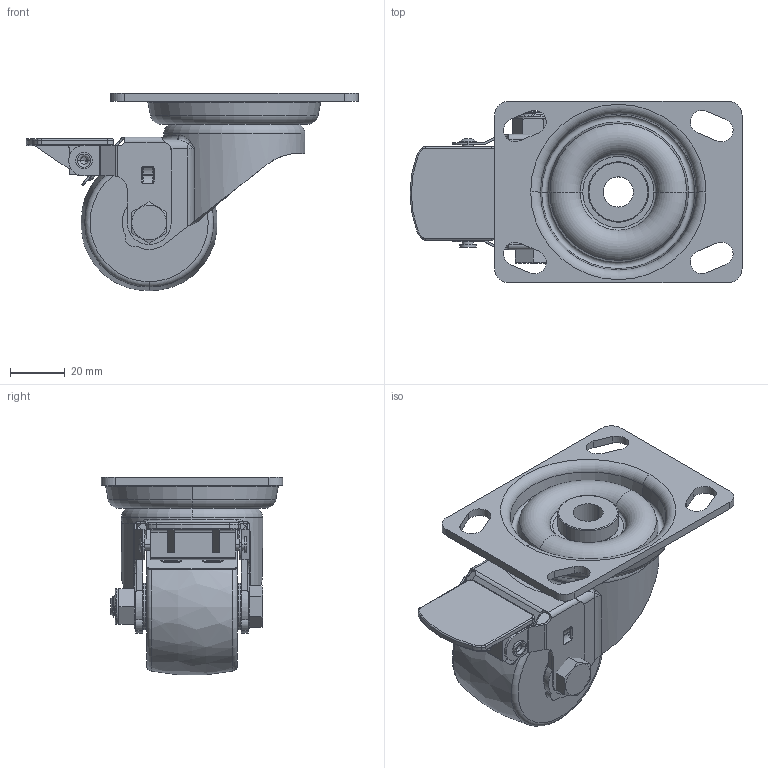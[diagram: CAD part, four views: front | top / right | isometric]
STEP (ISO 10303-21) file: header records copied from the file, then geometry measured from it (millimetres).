
FILE_DESCRIPTION((''),'2;1');
FILE_NAME('TZPS1W0050SWU5D0N-202954_ASM','2020-08-01T',('Administrator'),(''),'PRO/ENGINEER BY PARAMETRIC TECHNOLOGY CORPORATION, 2012480','PRO/ENGINEER BY PARAMETRIC TECHNOLOGY CORPORATION, 2012480','');
FILE_SCHEMA(('CONFIG_CONTROL_DESIGN'));
Length unit declared in the file: millimetre
Products named in the file (6): 321434-11; 330969-Z; 500304-M8-50; 500159_M8; 330969-01_ASM; TZPS1W0050SWU5D0N-202954_ASM
Assembly tree (5 placements, depth 3):
  TZPS1W0050SWU5D0N-202954_ASM
    321434-11
    330969-01_ASM
      330969-Z
      500304-M8-50
      500159_M8
Bounding box: 120.8 x 66 x 71.93 mm (x, y, z)
Volume: 119527.4 mm3; surface area: 47810.9 mm2
Topology: 5 solids, 5 shells, 489 faces, 1215 edges, 753 vertices
Faces by surface type: cylinder 192, plane 127, torus 78, bspline 58, cone 32, sphere 2
Entity records: 20999 total; most frequent: CARTESIAN_POINT 9486, ORIENTED_EDGE 2422, DIRECTION 2348, EDGE_CURVE 1211, AXIS2_PLACEMENT_3D 930, VERTEX_POINT 753, EDGE_LOOP 536, FACE_OUTER_BOUND 489
